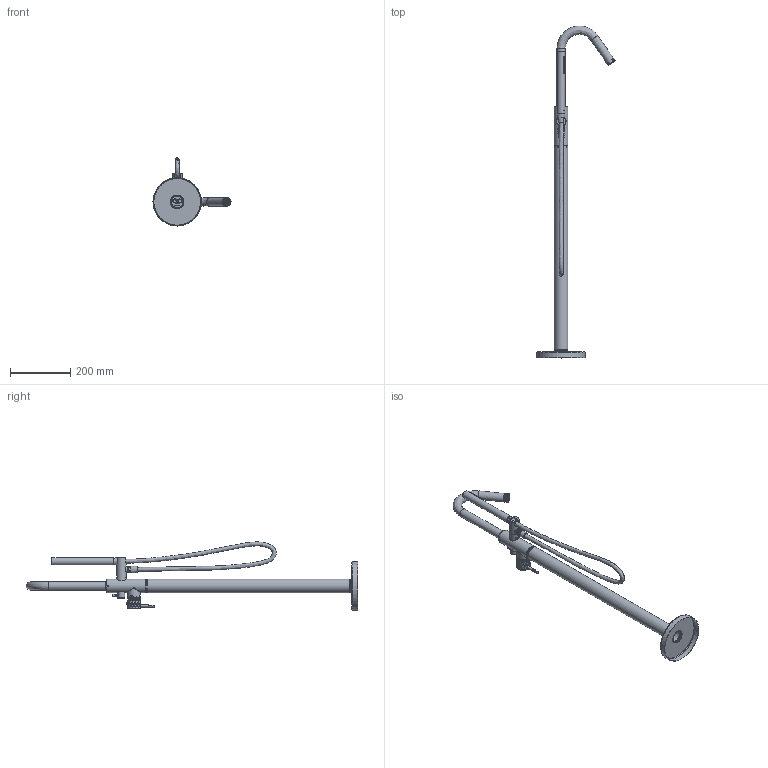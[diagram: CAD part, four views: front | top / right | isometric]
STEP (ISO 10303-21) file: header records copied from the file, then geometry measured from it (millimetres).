
FILE_DESCRIPTION (( 'STEP AP214' ), '1' );
FILE_NAME ('59CP07697.STEP', '2024-10-14T11:35:50', ( '' ), ( '' ), 'SwSTEP 2.0', 'SolidWorks 2021', '' );
FILE_SCHEMA (( 'AUTOMOTIVE_DESIGN' ));
Length unit declared in the file: millimetre
Products named in the file (1): 59CP07697
Bounding box: 257.97 x 1097.69 x 224.99 mm (x, y, z)
Volume: 666677.2 mm3; surface area: 478595.9 mm2
Topology: 20 solids, 20 shells, 990 faces, 2465 edges, 1640 vertices
Faces by surface type: cylinder 368, plane 339, bspline 140, cone 130, sphere 7, torus 6
Full cylindrical faces by diameter (mm): 2 x2, 3.3 x1, 4 x50, 4.2 x2, 4.5 x1, 5 x11, 5.8 x1, 6.2 x2, 6.5 x1, 6.6 x1, 6.8 x1, 7.7 x1, 8 x2, 9 x3, 9.5 x1, 9.8 x1, 10.5 x3, 11 x2, 12.5 x2, 13.4 x2, 13.5 x1, 14 x3, 15 x1, 16 x2, 16.5 x1, 17.5 x1, 18 x2, 18.1 x2, 18.5 x2, 18.632 x2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
Entity records: 71404 total; most frequent: CARTESIAN_POINT 42894, ORIENTED_EDGE 3666, DIRECTION 3130, EDGE_CURVE 1833, EDGE_LOOP 1390, VERTEX_POINT 1355, AXIS2_PLACEMENT_3D 1279, FACE_OUTER_BOUND 1032
